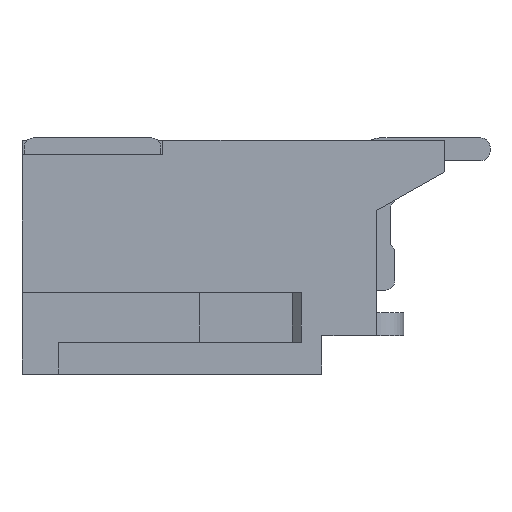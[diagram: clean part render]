
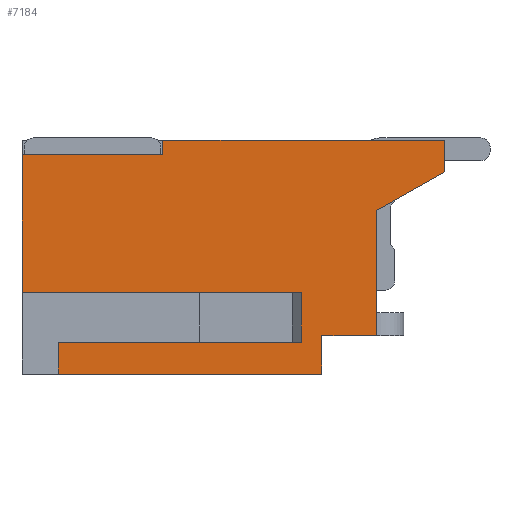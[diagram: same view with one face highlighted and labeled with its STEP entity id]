
A CAD part, front view. The second image highlights one B-rep face of the part: STEP entity #7184.
In plain terms, the highlighted planar face has unit normal (0, -1, 0).
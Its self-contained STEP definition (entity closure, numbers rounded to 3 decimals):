
#1089=DIRECTION('',(1.,0.,0.));
#1090=VECTOR('',#1089,6.2);
#1091=CARTESIAN_POINT('',(3.1,0.,0.));
#1092=LINE('',#1091,#1090);
#1093=DIRECTION('',(-0.87,0.,-0.493));
#1094=VECTOR('',#1093,1.724);
#1095=CARTESIAN_POINT('',(9.3,0.,-0.7));
#1096=LINE('',#1095,#1094);
#1097=DIRECTION('',(0.,0.,-1.));
#1098=VECTOR('',#1097,2.75);
#1099=CARTESIAN_POINT('',(7.8,0.,-1.55));
#1100=LINE('',#1099,#1098);
#1101=DIRECTION('',(-1.,0.,0.));
#1102=VECTOR('',#1101,1.2);
#1103=CARTESIAN_POINT('',(7.8,0.,-4.3));
#1104=LINE('',#1103,#1102);
#1105=DIRECTION('',(-1.,0.,0.));
#1106=VECTOR('',#1105,5.8);
#1107=CARTESIAN_POINT('',(6.6,0.,-5.15));
#1108=LINE('',#1107,#1106);
#1109=DIRECTION('',(0.,0.,1.));
#1110=VECTOR('',#1109,0.7);
#1111=CARTESIAN_POINT('',(0.8,0.,-5.15));
#1112=LINE('',#1111,#1110);
#1113=DIRECTION('',(0.,0.,1.));
#1114=VECTOR('',#1113,3.03);
#1115=CARTESIAN_POINT('',(0.,0.,-3.35));
#1116=LINE('',#1115,#1114);
#1121=DIRECTION('',(-1.,0.,0.));
#1122=VECTOR('',#1121,3.1);
#1123=CARTESIAN_POINT('',(3.1,0.,-0.32));
#1124=LINE('',#1123,#1122);
#1617=DIRECTION('',(0.,0.,1.));
#1618=VECTOR('',#1617,0.32);
#1619=CARTESIAN_POINT('',(3.1,0.,-0.32));
#1620=LINE('',#1619,#1618);
#3604=DIRECTION('',(-1.,0.,0.));
#3605=VECTOR('',#3604,6.15);
#3606=CARTESIAN_POINT('',(6.15,0.,-3.35));
#3607=LINE('',#3606,#3605);
#3628=DIRECTION('',(0.,0.,-1.));
#3629=VECTOR('',#3628,1.1);
#3630=CARTESIAN_POINT('',(6.15,0.,-3.35));
#3631=LINE('',#3630,#3629);
#3632=DIRECTION('',(1.,0.,0.));
#3633=VECTOR('',#3632,5.35);
#3634=CARTESIAN_POINT('',(0.8,0.,-4.45));
#3635=LINE('',#3634,#3633);
#3648=DIRECTION('',(0.,0.,1.));
#3649=VECTOR('',#3648,0.85);
#3650=CARTESIAN_POINT('',(6.6,0.,-5.15));
#3651=LINE('',#3650,#3649);
#3688=DIRECTION('',(0.,0.,1.));
#3689=VECTOR('',#3688,0.7);
#3690=CARTESIAN_POINT('',(9.3,0.,-0.7));
#3691=LINE('',#3690,#3689);
#4721=CARTESIAN_POINT('',(0.,0.,-0.32));
#4722=VERTEX_POINT('',#4721);
#4723=CARTESIAN_POINT('',(0.,0.,-3.35));
#4724=VERTEX_POINT('',#4723);
#4749=CARTESIAN_POINT('',(3.1,0.,0.));
#4750=VERTEX_POINT('',#4749);
#4751=CARTESIAN_POINT('',(9.3,0.,0.));
#4752=VERTEX_POINT('',#4751);
#4769=CARTESIAN_POINT('',(7.8,0.,-4.3));
#4770=VERTEX_POINT('',#4769);
#4771=CARTESIAN_POINT('',(7.8,0.,-1.55));
#4772=VERTEX_POINT('',#4771);
#4787=CARTESIAN_POINT('',(6.6,0.,-4.3));
#4788=VERTEX_POINT('',#4787);
#5061=CARTESIAN_POINT('',(0.8,0.,-5.15));
#5063=VERTEX_POINT('',#5061);
#5064=CARTESIAN_POINT('',(6.6,0.,-5.15));
#5065=VERTEX_POINT('',#5064);
#5066=CARTESIAN_POINT('',(0.8,0.,-4.45));
#5067=VERTEX_POINT('',#5066);
#5070=CARTESIAN_POINT('',(3.1,0.,-0.32));
#5071=VERTEX_POINT('',#5070);
#5072=CARTESIAN_POINT('',(6.15,0.,-3.35));
#5073=VERTEX_POINT('',#5072);
#5074=CARTESIAN_POINT('',(6.15,0.,-4.45));
#5075=VERTEX_POINT('',#5074);
#5076=CARTESIAN_POINT('',(9.3,0.,-0.7));
#5077=VERTEX_POINT('',#5076);
#7151=CARTESIAN_POINT('',(4.65,0.,-2.575));
#7152=DIRECTION('',(0.,1.,0.));
#7153=DIRECTION('',(1.,0.,0.));
#7154=AXIS2_PLACEMENT_3D('',#7151,#7152,#7153);
#7155=PLANE('',#7154);
#7157=ORIENTED_EDGE('',*,*,#7156,.F.);
#7159=ORIENTED_EDGE('',*,*,#7158,.T.);
#7161=ORIENTED_EDGE('',*,*,#7160,.T.);
#7163=ORIENTED_EDGE('',*,*,#7162,.F.);
#7165=ORIENTED_EDGE('',*,*,#7164,.T.);
#7166=ORIENTED_EDGE('',*,*,#7122,.T.);
#7167=ORIENTED_EDGE('',*,*,#5898,.T.);
#7169=ORIENTED_EDGE('',*,*,#7168,.F.);
#7171=ORIENTED_EDGE('',*,*,#7170,.T.);
#7173=ORIENTED_EDGE('',*,*,#7172,.T.);
#7175=ORIENTED_EDGE('',*,*,#7174,.T.);
#7177=ORIENTED_EDGE('',*,*,#7176,.F.);
#7179=ORIENTED_EDGE('',*,*,#7178,.T.);
#7181=ORIENTED_EDGE('',*,*,#7180,.T.);
#7182=EDGE_LOOP('',(#7157,#7159,#7161,#7163,#7165,#7166,#7167,#7169,#7171,#7173,
#7175,#7177,#7179,#7181));
#7183=FACE_OUTER_BOUND('',#7182,.F.);
#7184=ADVANCED_FACE('',(#7183),#7155,.F.);
#5898=EDGE_CURVE('',#4770,#4788,#1104,.T.);
#7122=EDGE_CURVE('',#4772,#4770,#1100,.T.);
#7156=EDGE_CURVE('',#5071,#4722,#1124,.T.);
#7158=EDGE_CURVE('',#5071,#4750,#1620,.T.);
#7160=EDGE_CURVE('',#4750,#4752,#1092,.T.);
#7162=EDGE_CURVE('',#5077,#4752,#3691,.T.);
#7164=EDGE_CURVE('',#5077,#4772,#1096,.T.);
#7168=EDGE_CURVE('',#5065,#4788,#3651,.T.);
#7170=EDGE_CURVE('',#5065,#5063,#1108,.T.);
#7172=EDGE_CURVE('',#5063,#5067,#1112,.T.);
#7174=EDGE_CURVE('',#5067,#5075,#3635,.T.);
#7176=EDGE_CURVE('',#5073,#5075,#3631,.T.);
#7178=EDGE_CURVE('',#5073,#4724,#3607,.T.);
#7180=EDGE_CURVE('',#4724,#4722,#1116,.T.);
